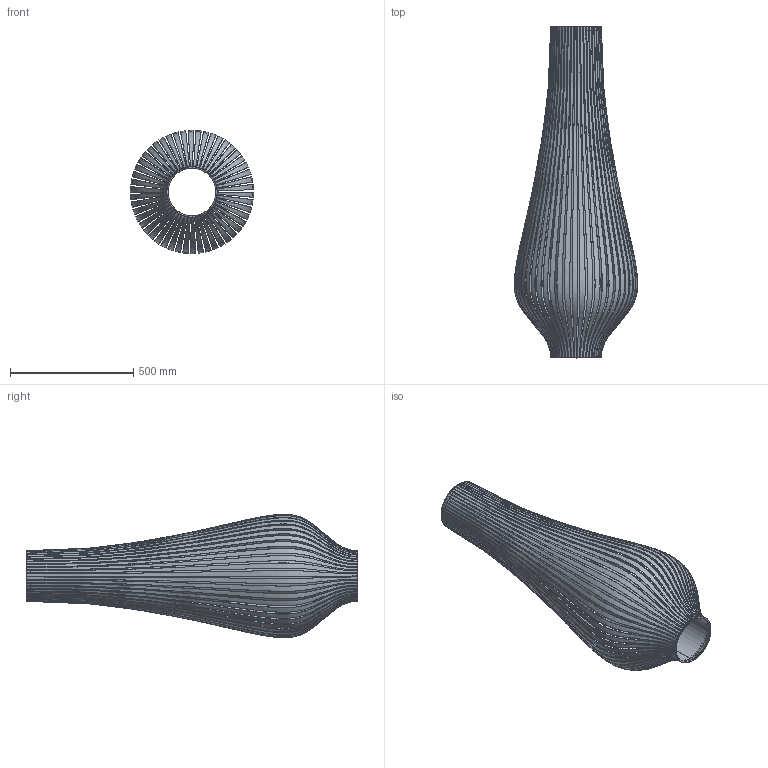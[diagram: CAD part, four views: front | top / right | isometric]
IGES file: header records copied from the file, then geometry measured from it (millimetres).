
Start section: SolidWorks IGES file using analytic representation for surfaces
Global section: file name: \\srvficheros\grupos\DISENYO\DESARROLLO DE PRODUCTO\_3D_WEB\MIRTA-H3054080\MIRTA-H3054080.IGS; native system: SolidWorks 2025; preprocessor: SolidWorks 2025; author: d.pons; date: 260114.131310; units: millimetre
Bounding box: 499.98 x 1345 x 499.83 mm (x, y, z)
Surface area: 3813093.7 mm2 (no closed solid volume)
Topology: 0 solids, 0 shells, 320 faces, 13994 edges, 13994 vertices
Faces by surface type: bspline 316, revolution 4
